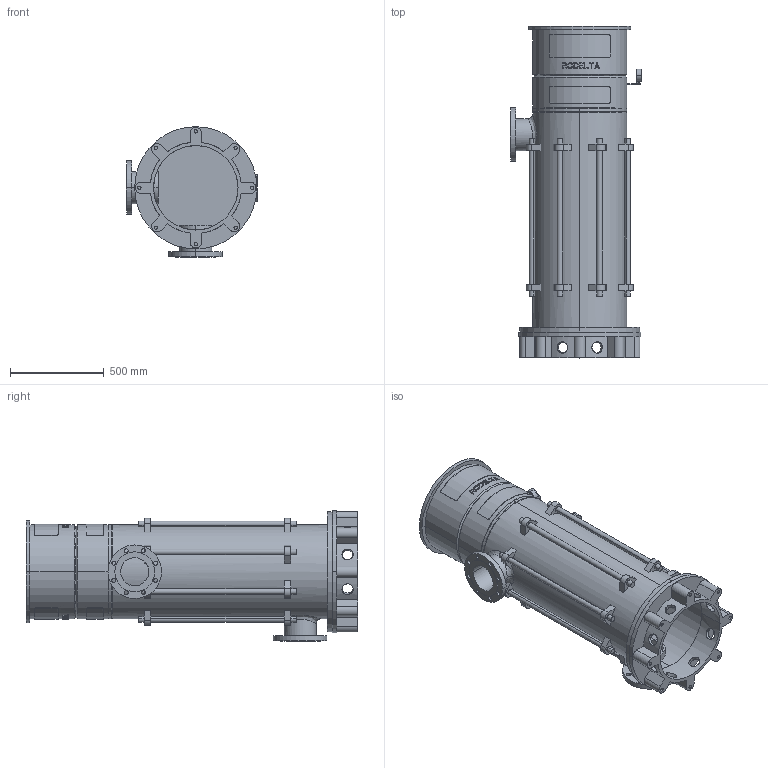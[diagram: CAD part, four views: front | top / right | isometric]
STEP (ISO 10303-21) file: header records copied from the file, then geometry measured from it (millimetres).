
FILE_DESCRIPTION((''),'2;1');
FILE_NAME('LS6_5TR_0GR_PN16_ABOVE_30KW','2025-10-23T15:36:55',('Lyritlocal'),(''),'CREO PARAMETRIC BY PTC INC, 2022014','CREO PARAMETRIC BY PTC INC, 2022014','');
FILE_SCHEMA(('CONFIG_CONTROL_DESIGN'));
Length unit declared in the file: millimetre
Products named in the file (1): LS6_5TR_0GR_PN16_ABOVE_30KW
Bounding box: 700 x 1765 x 695 mm (x, y, z)
Volume: 56775706.5 mm3; surface area: 7959214.7 mm2
Topology: 3 solids, 11 shells, 732 faces, 1891 edges, 1258 vertices
Faces by surface type: plane 438, cylinder 274, cone 12, bspline 8
Entity records: 24206 total; most frequent: CARTESIAN_POINT 6378, ORIENTED_EDGE 3750, DIRECTION 3537, EDGE_CURVE 1891, AXIS2_PLACEMENT_3D 1341, VERTEX_POINT 1258, EDGE_LOOP 893, VECTOR 855
